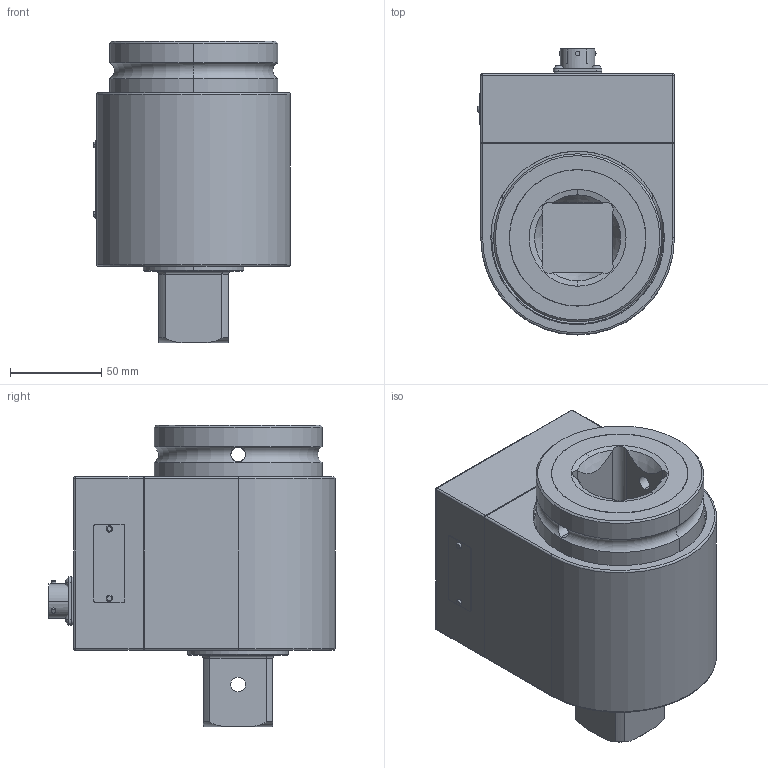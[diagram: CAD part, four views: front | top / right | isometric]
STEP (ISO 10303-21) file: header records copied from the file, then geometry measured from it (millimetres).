
FILE_DESCRIPTION((''),'2;1');
FILE_NAME('6159351640','2019-03-19T15:01:12',('greextsd'),(''),'CREO PARAMETRIC BY PTC INC, 2018260','CREO PARAMETRIC BY PTC INC, 2018260','');
FILE_SCHEMA(('AUTOMOTIVE_DESIGN { 1 0 10303 214 1 1 1 1 }'));
Length unit declared in the file: millimetre
Products named in the file (1): 6159351640
Bounding box: 107.75 x 156.52 x 165 mm (x, y, z)
Volume: 902140.9 mm3; surface area: 189890.3 mm2
Topology: 2 solids, 4 shells, 2030 faces, 5412 edges, 3441 vertices
Faces by surface type: plane 1285, cylinder 604, sphere 56, cone 55, torus 30
Entity records: 103189 total; most frequent: CARTESIAN_POINT 48500, ORIENTED_EDGE 10724, DIRECTION 10402, EDGE_CURVE 5362, AXIS2_PLACEMENT_3D 3642, VERTEX_POINT 3441, VECTOR 3115, LINE 3115
